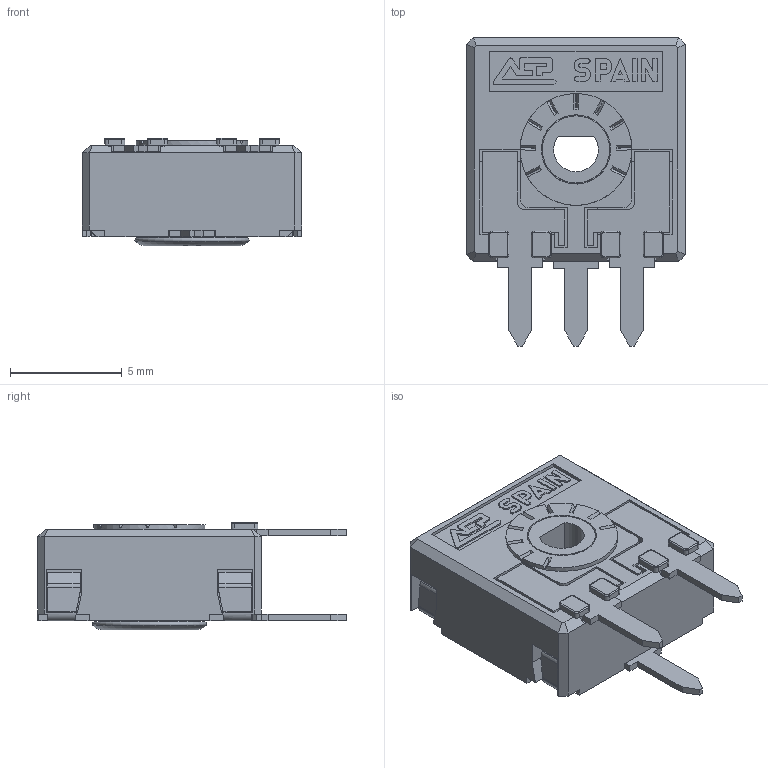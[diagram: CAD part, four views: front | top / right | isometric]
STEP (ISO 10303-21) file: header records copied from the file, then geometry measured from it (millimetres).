
FILE_DESCRIPTION(/* description */ (''),/* implementation_level */ '2;1');
FILE_NAME(/* name */ 'C:\Users\CEM\Desktop\ENVIAR\TRANSICION 3D CATALOGOS\RS9DHS3,8.stp',/* time_stamp */ '2025-11-26T17:38:23+01:00',/* author */ ('CEM'),/* organization */ (''),/* preprocessor_version */ 'ST-DEVELOPER v16.13',/* originating_system */ 'Autodesk Inventor 2018',/* authorisation */ '');
FILE_SCHEMA (('AUTOMOTIVE_DESIGN { 1 0 10303 214 3 1 1 }'));
Length unit declared in the file: millimetre
Products named in the file (1): RS9DHS3,8
Bounding box: 9.8 x 13.8 x 4.8 mm (x, y, z)
Volume: 239.7 mm3; surface area: 797.8 mm2
Topology: 2 solids, 2 shells, 580 faces, 1637 edges, 1046 vertices
Faces by surface type: plane 464, cylinder 80, torus 19, cone 17
Full cylindrical faces by diameter (mm): 3 x1, 3.1 x1, 4 x1, 4.8 x1, 5 x1
Entity records: 18616 total; most frequent: CARTESIAN_POINT 3303, ORIENTED_EDGE 3248, DIRECTION 3015, EDGE_CURVE 1622, LINE 1335, VECTOR 1335, VERTEX_POINT 1042, AXIS2_PLACEMENT_3D 840
